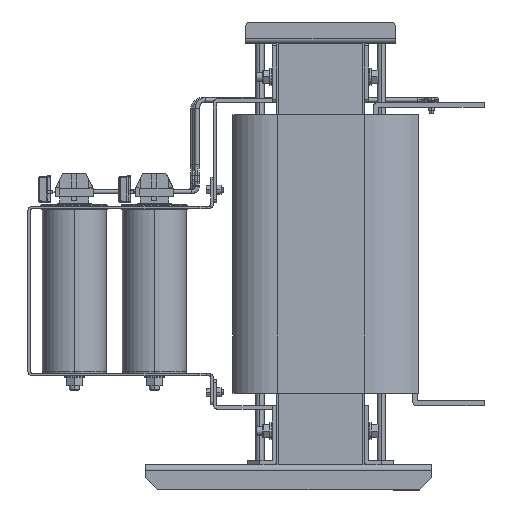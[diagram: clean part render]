
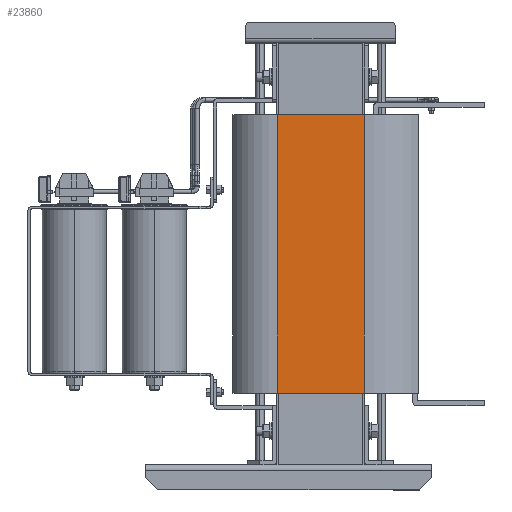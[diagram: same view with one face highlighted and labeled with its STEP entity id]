
A CAD part, left-side view. The second image highlights one B-rep face of the part: STEP entity #23860.
In plain terms, the highlighted planar face has unit normal (-1, 0, 0).
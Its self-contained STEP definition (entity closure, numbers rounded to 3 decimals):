
#12920 = VERTEX_POINT ( 'NONE', #55717 ) ;
#23860 = ADVANCED_FACE ( 'NONE', ( #84126 ), #56123, .T. ) ;
#24899 = LINE ( 'NONE', #69454, #148114 ) ;
#27320 = VECTOR ( 'NONE', #151498, 1000. ) ;
#30826 = EDGE_CURVE ( 'NONE', #53937, #69474, #150543, .T. ) ;
#31869 = DIRECTION ( 'NONE',  ( -1., 0., 0. ) ) ;
#32889 = CARTESIAN_POINT ( 'NONE',  ( -231.5, -55.358, 415. ) ) ;
#33414 = DIRECTION ( 'NONE',  ( 0., 0., -1. ) ) ;
#46803 = VECTOR ( 'NONE', #119041, 1000. ) ;
#48749 = CARTESIAN_POINT ( 'NONE',  ( -231.5, -101.584, 415. ) ) ;
#53937 = VERTEX_POINT ( 'NONE', #139496 ) ;
#55717 = CARTESIAN_POINT ( 'NONE',  ( -231.5, 1.587, 415. ) ) ;
#56123 = PLANE ( 'NONE',  #146605 ) ;
#65432 = CARTESIAN_POINT ( 'NONE',  ( -231.5, -55.358, 85. ) ) ;
#67439 = VECTOR ( 'NONE', #33414, 1000. ) ;
#69454 = CARTESIAN_POINT ( 'NONE',  ( -231.5, 1.587, 85. ) ) ;
#69474 = VERTEX_POINT ( 'NONE', #77281 ) ;
#71864 = EDGE_CURVE ( 'NONE', #140779, #69474, #100195, .T. ) ;
#77281 = CARTESIAN_POINT ( 'NONE',  ( -231.5, -101.584, 85. ) ) ;
#79476 = LINE ( 'NONE', #32889, #46803 ) ;
#84126 = FACE_OUTER_BOUND ( 'NONE', #155066, .T. ) ;
#84948 = ORIENTED_EDGE ( 'NONE', *, *, #97133, .T. ) ;
#86613 = ORIENTED_EDGE ( 'NONE', *, *, #71864, .F. ) ;
#91906 = ORIENTED_EDGE ( 'NONE', *, *, #30826, .T. ) ;
#94251 = EDGE_CURVE ( 'NONE', #12920, #140779, #79476, .T. ) ;
#97133 = EDGE_CURVE ( 'NONE', #12920, #53937, #24899, .T. ) ;
#100195 = LINE ( 'NONE', #153880, #67439 ) ;
#105633 = CARTESIAN_POINT ( 'NONE',  ( -231.5, -101.584, 85. ) ) ;
#118007 = DIRECTION ( 'NONE',  ( 0., 0., 1. ) ) ;
#119031 = DIRECTION ( 'NONE',  ( 0., 0., -1. ) ) ;
#119041 = DIRECTION ( 'NONE',  ( 0., -1., 0. ) ) ;
#134863 = ORIENTED_EDGE ( 'NONE', *, *, #94251, .F. ) ;
#139496 = CARTESIAN_POINT ( 'NONE',  ( -231.5, 1.587, 85. ) ) ;
#140779 = VERTEX_POINT ( 'NONE', #48749 ) ;
#146605 = AXIS2_PLACEMENT_3D ( 'NONE', #105633, #31869, #118007 ) ;
#148114 = VECTOR ( 'NONE', #119031, 1000. ) ;
#150543 = LINE ( 'NONE', #65432, #27320 ) ;
#151498 = DIRECTION ( 'NONE',  ( 0., -1., 0. ) ) ;
#153880 = CARTESIAN_POINT ( 'NONE',  ( -231.5, -101.584, 85. ) ) ;
#155066 = EDGE_LOOP ( 'NONE', ( #91906, #86613, #134863, #84948 ) ) ;
